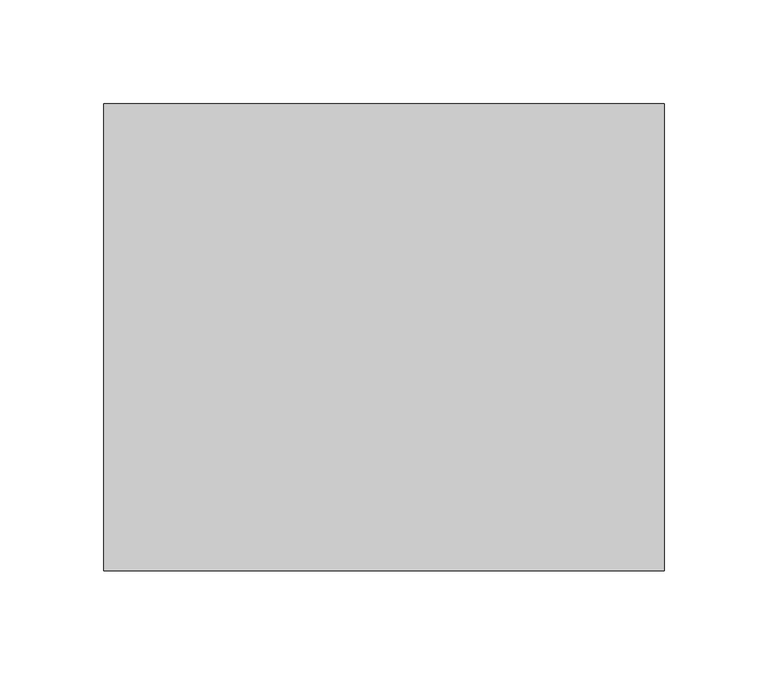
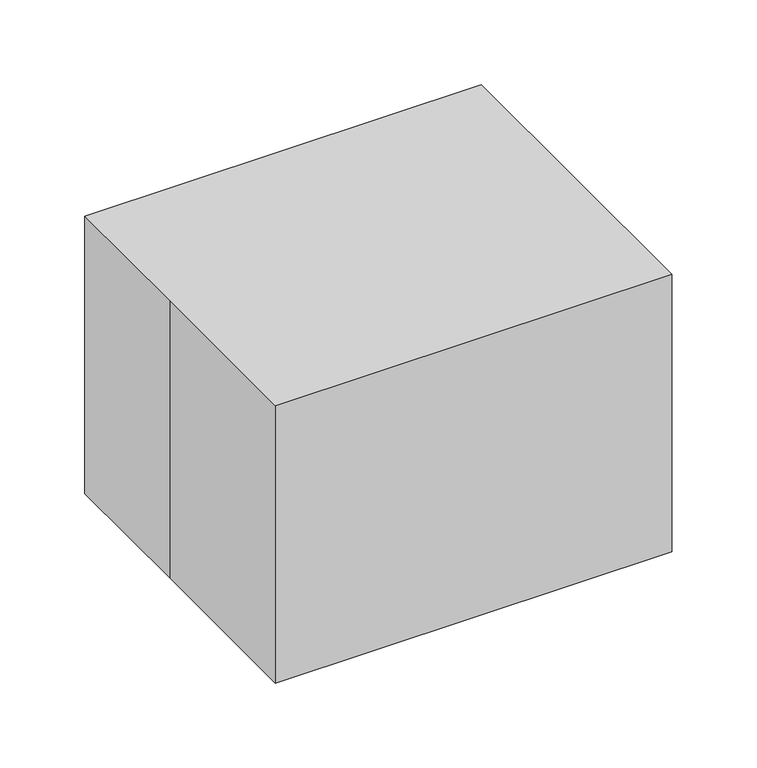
"""IFC4 building model written with IfcOpenShell, lengths in millimetres: proxy geometry, Camarteaux : Camarteaux."""

from ifc_helpers import new_model, si_unit, origin, origin_with_axes, place, context, project, spatial, polyline, outline, extrude, source, transform, mapped, element, save


def generic_models_7a2b83c8(model_context):
    return source(origin(), model_context, "Body", "SweptSolid", [
        extrude(outline(polyline([(-145.0, 100.0), (125.0, 100.0), (125.0, -125.0), (-145.0, -125.0), (-145.0, 0.0), (-145.0, 100.0)])), origin_with_axes(), (0.0, 0.0, 1.0), 200.0),
    ])


if __name__ == "__main__":
    model = new_model("IFC4")
    model_context = context("Model", 3, world=origin())
    ifc_project = project(units=[si_unit("LENGTHUNIT", "METRE", prefix="MILLI")], contexts=[model_context])
    site = spatial("IfcSite", under=ifc_project)
    building = spatial("IfcBuilding", under=site)
    placement = place(None, origin())
    generic_models_shape = generic_models_7a2b83c8(model_context)
    element("IfcBuildingElementProxy", 1, Name="Camarteaux : Camarteaux", ObjectType="Camarteaux : Camarteaux", at=placement, inside=building, context=model_context, shape_type="MappedRepresentation", body=[
        mapped(generic_models_shape, transform((0.0, 0.0, 0.0), x_axis=(1.0, 0.0, 0.0), y_axis=(0.0, 1.0, 0.0), z_axis=(0.0, 0.0, 1.0))),
    ])
    save(model, "model.ifc")
